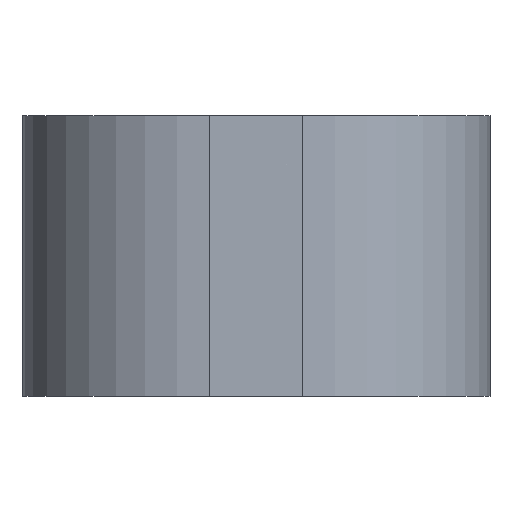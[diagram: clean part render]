
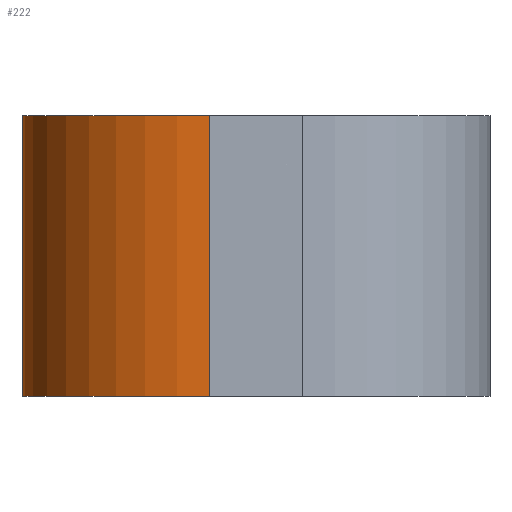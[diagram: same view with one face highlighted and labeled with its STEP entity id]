
A CAD part, front view. The second image highlights one B-rep face of the part: STEP entity #222.
In plain terms, the highlighted cylindrical face has radius 2 mm (diameter 4 mm), a partial arc.
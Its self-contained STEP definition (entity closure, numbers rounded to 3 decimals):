
#30=FACE_OUTER_BOUND('',#44,.T.);
#44=EDGE_LOOP('',(#177,#178,#179,#180));
#62=LINE('',#373,#80);
#64=LINE('',#378,#82);
#80=VECTOR('',#304,10.);
#82=VECTOR('',#310,10.);
#92=CIRCLE('',#249,2.);
#97=CIRCLE('',#257,2.);
#109=VERTEX_POINT('',#356);
#110=VERTEX_POINT('',#358);
#115=VERTEX_POINT('',#372);
#116=VERTEX_POINT('',#376);
#131=EDGE_CURVE('',#110,#109,#92,.T.);
#138=EDGE_CURVE('',#115,#110,#62,.T.);
#140=EDGE_CURVE('',#116,#115,#97,.T.);
#141=EDGE_CURVE('',#109,#116,#64,.T.);
#177=ORIENTED_EDGE('',*,*,#140,.T.);
#178=ORIENTED_EDGE('',*,*,#138,.T.);
#179=ORIENTED_EDGE('',*,*,#131,.T.);
#180=ORIENTED_EDGE('',*,*,#141,.T.);
#213=CYLINDRICAL_SURFACE('',#256,2.);
#222=ADVANCED_FACE('',(#30),#213,.T.);
#249=AXIS2_PLACEMENT_3D('',#359,#288,#289);
#256=AXIS2_PLACEMENT_3D('',#375,#306,#307);
#257=AXIS2_PLACEMENT_3D('',#377,#308,#309);
#288=DIRECTION('center_axis',(0.,0.,1.));
#289=DIRECTION('ref_axis',(-0.707,-0.707,0.));
#304=DIRECTION('',(0.,0.,-1.));
#306=DIRECTION('center_axis',(0.,0.,1.));
#307=DIRECTION('ref_axis',(-0.707,-0.707,0.));
#308=DIRECTION('center_axis',(0.,0.,-1.));
#309=DIRECTION('ref_axis',(-0.707,-0.707,0.));
#310=DIRECTION('',(0.,0.,1.));
#356=CARTESIAN_POINT('',(-0.5,-13.239,0.));
#358=CARTESIAN_POINT('',(-2.5,-11.239,0.));
#359=CARTESIAN_POINT('Origin',(-0.5,-11.239,0.));
#372=CARTESIAN_POINT('',(-2.5,-11.239,3.));
#373=CARTESIAN_POINT('',(-2.5,-11.239,0.));
#375=CARTESIAN_POINT('Origin',(-0.5,-11.239,0.));
#376=CARTESIAN_POINT('',(-0.5,-13.239,3.));
#377=CARTESIAN_POINT('Origin',(-0.5,-11.239,3.));
#378=CARTESIAN_POINT('',(-0.5,-13.239,0.));
